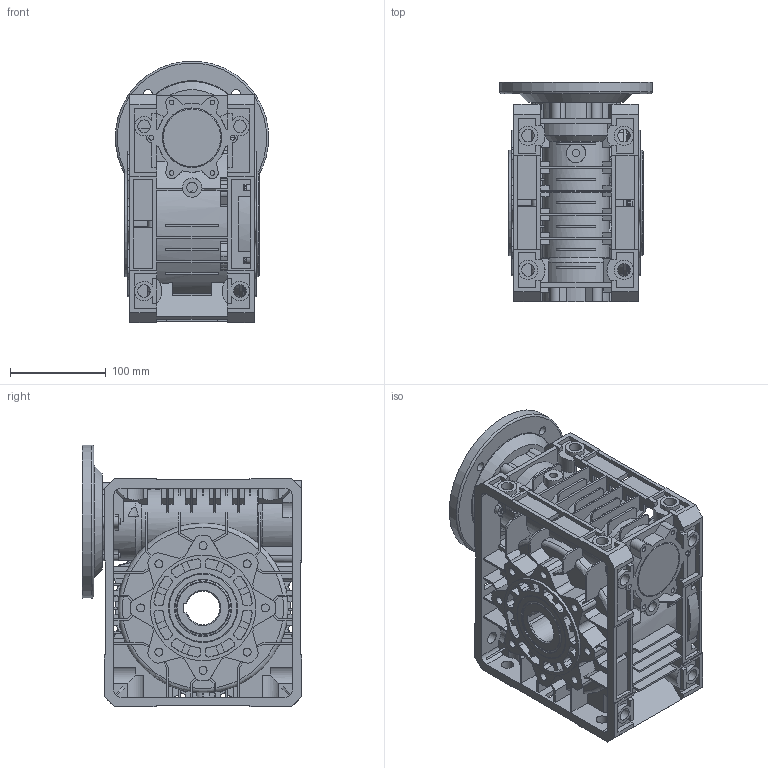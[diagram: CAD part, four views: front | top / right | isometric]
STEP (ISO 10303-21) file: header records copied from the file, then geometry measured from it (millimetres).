
FILE_DESCRIPTION((''),'2;1');
FILE_NAME('C:\Users\m.piscopiello.SITIRIDUTTORI\Desktop\FIGURINI VSF\FIGURINI U-MU 90\MU 90 PAM 100 B14.stp','2016-03-08T09:49:04',('m.piscopiello'),(''),'Autodesk Inventor 2012','Autodesk Inventor 2012','');
FILE_SCHEMA(('CONFIG_CONTROL_DESIGN'));
Length unit declared in the file: millimetre
Products named in the file (1): 3F021153
Bounding box: 159.39 x 229 x 272.7 mm (x, y, z)
Volume: 2517108.3 mm3; surface area: 804592.7 mm2
Topology: 3 solids, 28 shells, 3183 faces, 8490 edges, 5334 vertices
Faces by surface type: plane 1350, cylinder 993, torus 476, cone 192, bspline 104, sphere 68
Full cylindrical faces by diameter (mm): 4.917 x6, 6 x6, 6.647 x8, 7 x6, 8 x17, 8.376 x16, 9 x12, 10 x6, 11 x8, 12 x8, 13 x22, 20 x5, 40 x2, 43.75 x1, 45.438 x1, 54 x1, 55 x4, 56 x2, 58.875 x1, 59 x1, 60.438 x2, 62 x2, 65.4 x1, 68 x2, 68.6 x2, 72 x4, 80 x2, 90 x2, 101.5 x2, 105 x1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
Entity records: 102355 total; most frequent: CARTESIAN_POINT 24247, DIRECTION 16563, ORIENTED_EDGE 16128, EDGE_CURVE 8064, AXIS2_PLACEMENT_3D 6389, VERTEX_POINT 5233, VECTOR 3785, LINE 3785
